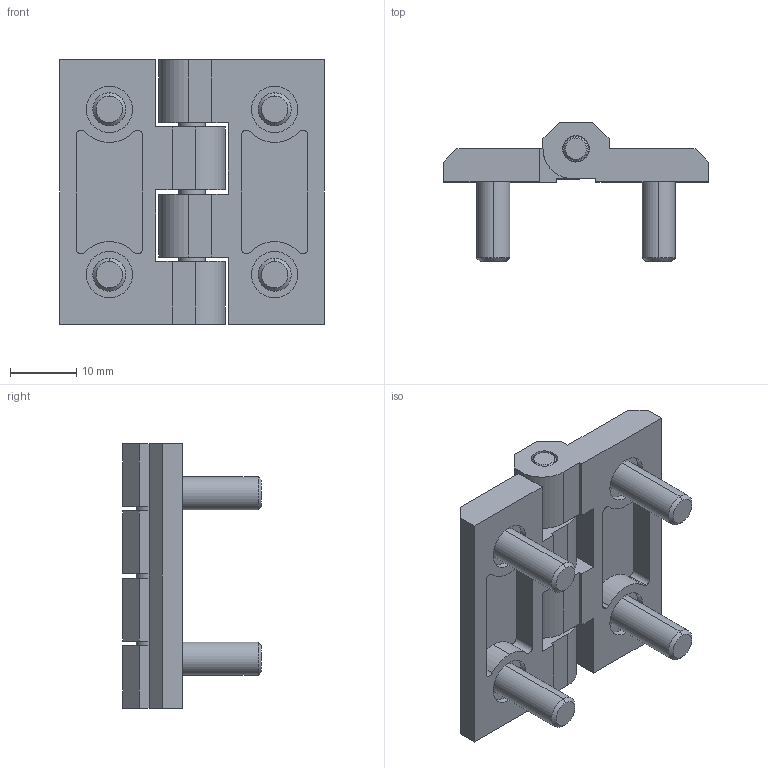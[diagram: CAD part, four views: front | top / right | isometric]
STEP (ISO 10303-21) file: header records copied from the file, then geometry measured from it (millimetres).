
FILE_DESCRIPTION (( 'STEP AP214' ), '1' );
FILE_NAME ('SK2-021-1.STEP', '2020-04-15T06:41:02', ( 'admin' ), ( 'Microsoft' ), 'SwSTEP 2.0', 'SolidWorks 2018', '' );
FILE_SCHEMA (( 'AUTOMOTIVE_DESIGN' ));
Length unit declared in the file: millimetre
Products named in the file (3): 2-021-1-F2; 2-021-1-F1; SK2-021-1
Assembly tree (3 placements, depth 2):
  SK2-021-1
    2-021-1-F1  x2
    2-021-1-F2
Bounding box: 40 x 21 x 40 mm (x, y, z)
Volume: 8311.9 mm3; surface area: 7078.7 mm2
Topology: 3 solids, 3 shells, 222 faces, 558 edges, 352 vertices
Faces by surface type: plane 162, cylinder 48, cone 12
Entity records: 4996 total; most frequent: CARTESIAN_POINT 971, ORIENTED_EDGE 812, DIRECTION 802, EDGE_CURVE 406, AXIS2_PLACEMENT_3D 275, VECTOR 252, LINE 252, VERTEX_POINT 252
